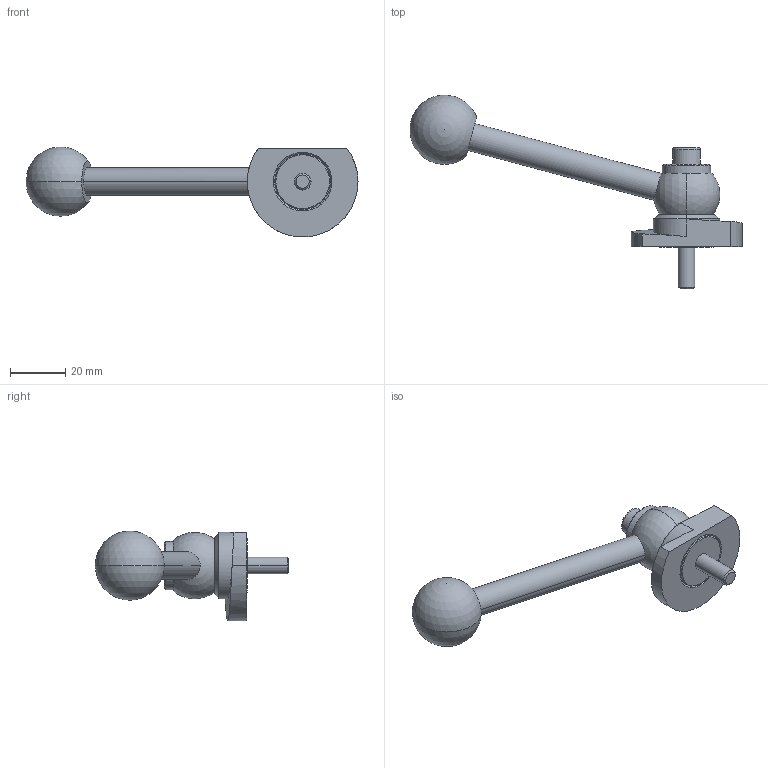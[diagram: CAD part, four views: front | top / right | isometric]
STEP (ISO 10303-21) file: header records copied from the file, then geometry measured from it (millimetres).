
FILE_DESCRIPTION (( 'STEP AP214' ), '1' );
FILE_NAME ('918.1-40-KVS-L-15.step', '2024-05-15T12:59:59', ( '' ), ( '' ), 'SwSTEP 2.0', 'SolidWorks 2022', '' );
FILE_SCHEMA (( 'AUTOMOTIVE_DESIGN' ));
Length unit declared in the file: millimetre
Products named in the file (1): 918.1-40-KVS-L-15
Bounding box: 119.95 x 69.99 x 32.5 mm (x, y, z)
Volume: 30174.4 mm3; surface area: 11118.8 mm2
Topology: 1 solids, 1 shells, 62 faces, 141 edges, 89 vertices
Faces by surface type: plane 20, cylinder 19, cone 14, sphere 4, bspline 3, torus 2
Entity records: 2003 total; most frequent: CARTESIAN_POINT 614, DIRECTION 304, ORIENTED_EDGE 262, EDGE_CURVE 131, AXIS2_PLACEMENT_3D 125, VERTEX_POINT 83, EDGE_LOOP 74, CIRCLE 65
